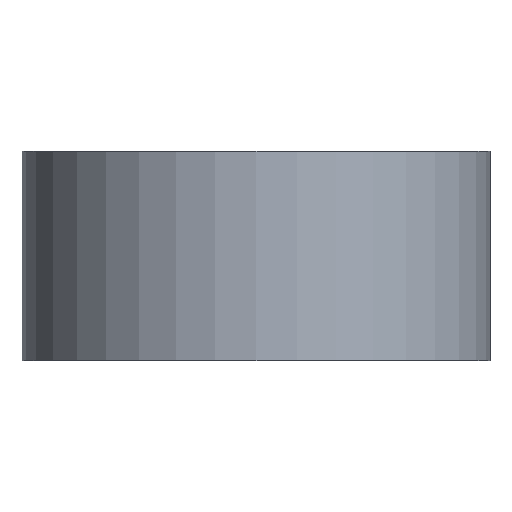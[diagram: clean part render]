
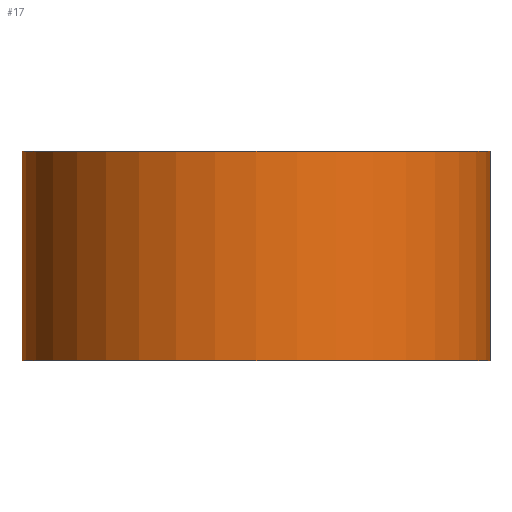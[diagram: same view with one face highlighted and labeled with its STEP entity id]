
A CAD part, front view. The second image highlights one B-rep face of the part: STEP entity #17.
In plain terms, the highlighted cylindrical face has radius 20.12 mm (diameter 40.24 mm), a full revolution.
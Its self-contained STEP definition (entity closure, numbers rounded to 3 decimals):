
#17 = ADVANCED_FACE('',(#18),#31,.T.);
#18 = FACE_BOUND('',#19,.T.);
#19 = EDGE_LOOP('',(#20,#54,#77,#104));
#20 = ORIENTED_EDGE('',*,*,#21,.F.);
#21 = EDGE_CURVE('',#22,#22,#24,.T.);
#22 = VERTEX_POINT('',#23);
#23 = CARTESIAN_POINT('',(20.12,0.,22.));
#24 = SURFACE_CURVE('',#25,(#30,#42),.PCURVE_S1.);
#25 = CIRCLE('',#26,20.12);
#26 = AXIS2_PLACEMENT_3D('',#27,#28,#29);
#27 = CARTESIAN_POINT('',(0.,0.,22.));
#28 = DIRECTION('',(0.,0.,1.));
#29 = DIRECTION('',(1.,0.,-0.));
#30 = PCURVE('',#31,#36);
#31 = CYLINDRICAL_SURFACE('',#32,20.12);
#32 = AXIS2_PLACEMENT_3D('',#33,#34,#35);
#33 = CARTESIAN_POINT('',(0.,0.,4.));
#34 = DIRECTION('',(0.,0.,1.));
#35 = DIRECTION('',(1.,0.,-0.));
#36 = DEFINITIONAL_REPRESENTATION('',(#37),#41);
#37 = LINE('',#38,#39);
#38 = CARTESIAN_POINT('',(0.,18.));
#39 = VECTOR('',#40,1.);
#40 = DIRECTION('',(1.,0.));
#41 = ( GEOMETRIC_REPRESENTATION_CONTEXT(2) 
PARAMETRIC_REPRESENTATION_CONTEXT() REPRESENTATION_CONTEXT('2D SPACE',''
  ) );
#42 = PCURVE('',#43,#48);
#43 = PLANE('',#44);
#44 = AXIS2_PLACEMENT_3D('',#45,#46,#47);
#45 = CARTESIAN_POINT('',(0.,0.,22.));
#46 = DIRECTION('',(0.,0.,1.));
#47 = DIRECTION('',(1.,0.,-0.));
#48 = DEFINITIONAL_REPRESENTATION('',(#49),#53);
#49 = CIRCLE('',#50,20.12);
#50 = AXIS2_PLACEMENT_2D('',#51,#52);
#51 = CARTESIAN_POINT('',(0.,0.));
#52 = DIRECTION('',(1.,0.));
#53 = ( GEOMETRIC_REPRESENTATION_CONTEXT(2) 
PARAMETRIC_REPRESENTATION_CONTEXT() REPRESENTATION_CONTEXT('2D SPACE',''
  ) );
#54 = ORIENTED_EDGE('',*,*,#55,.F.);
#55 = EDGE_CURVE('',#56,#22,#58,.T.);
#56 = VERTEX_POINT('',#57);
#57 = CARTESIAN_POINT('',(20.12,0.,4.));
#58 = SEAM_CURVE('',#59,(#63,#70),.PCURVE_S1.);
#59 = LINE('',#60,#61);
#60 = CARTESIAN_POINT('',(20.12,0.,4.));
#61 = VECTOR('',#62,1.);
#62 = DIRECTION('',(0.,0.,1.));
#63 = PCURVE('',#31,#64);
#64 = DEFINITIONAL_REPRESENTATION('',(#65),#69);
#65 = LINE('',#66,#67);
#66 = CARTESIAN_POINT('',(6.283,-0.));
#67 = VECTOR('',#68,1.);
#68 = DIRECTION('',(0.,1.));
#69 = ( GEOMETRIC_REPRESENTATION_CONTEXT(2) 
PARAMETRIC_REPRESENTATION_CONTEXT() REPRESENTATION_CONTEXT('2D SPACE',''
  ) );
#70 = PCURVE('',#31,#71);
#71 = DEFINITIONAL_REPRESENTATION('',(#72),#76);
#72 = LINE('',#73,#74);
#73 = CARTESIAN_POINT('',(0.,-0.));
#74 = VECTOR('',#75,1.);
#75 = DIRECTION('',(0.,1.));
#76 = ( GEOMETRIC_REPRESENTATION_CONTEXT(2) 
PARAMETRIC_REPRESENTATION_CONTEXT() REPRESENTATION_CONTEXT('2D SPACE',''
  ) );
#77 = ORIENTED_EDGE('',*,*,#78,.T.);
#78 = EDGE_CURVE('',#56,#56,#79,.T.);
#79 = SURFACE_CURVE('',#80,(#85,#92),.PCURVE_S1.);
#80 = CIRCLE('',#81,20.12);
#81 = AXIS2_PLACEMENT_3D('',#82,#83,#84);
#82 = CARTESIAN_POINT('',(0.,0.,4.));
#83 = DIRECTION('',(0.,0.,1.));
#84 = DIRECTION('',(1.,0.,-0.));
#85 = PCURVE('',#31,#86);
#86 = DEFINITIONAL_REPRESENTATION('',(#87),#91);
#87 = LINE('',#88,#89);
#88 = CARTESIAN_POINT('',(0.,0.));
#89 = VECTOR('',#90,1.);
#90 = DIRECTION('',(1.,0.));
#91 = ( GEOMETRIC_REPRESENTATION_CONTEXT(2) 
PARAMETRIC_REPRESENTATION_CONTEXT() REPRESENTATION_CONTEXT('2D SPACE',''
  ) );
#92 = PCURVE('',#93,#98);
#93 = PLANE('',#94);
#94 = AXIS2_PLACEMENT_3D('',#95,#96,#97);
#95 = CARTESIAN_POINT('',(0.,0.,4.));
#96 = DIRECTION('',(0.,0.,1.));
#97 = DIRECTION('',(1.,0.,-0.));
#98 = DEFINITIONAL_REPRESENTATION('',(#99),#103);
#99 = CIRCLE('',#100,20.12);
#100 = AXIS2_PLACEMENT_2D('',#101,#102);
#101 = CARTESIAN_POINT('',(0.,0.));
#102 = DIRECTION('',(1.,0.));
#103 = ( GEOMETRIC_REPRESENTATION_CONTEXT(2) 
PARAMETRIC_REPRESENTATION_CONTEXT() REPRESENTATION_CONTEXT('2D SPACE',''
  ) );
#104 = ORIENTED_EDGE('',*,*,#55,.T.);
